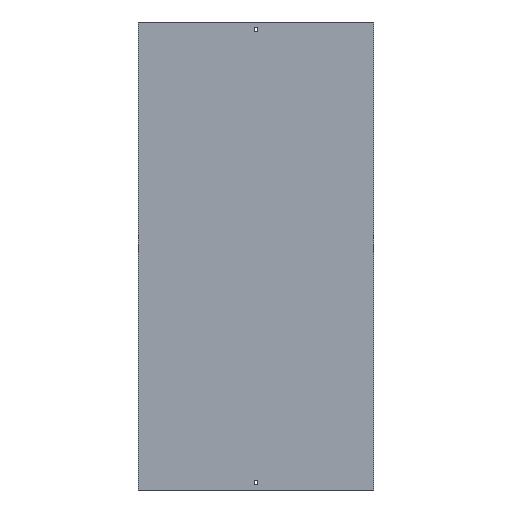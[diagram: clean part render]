
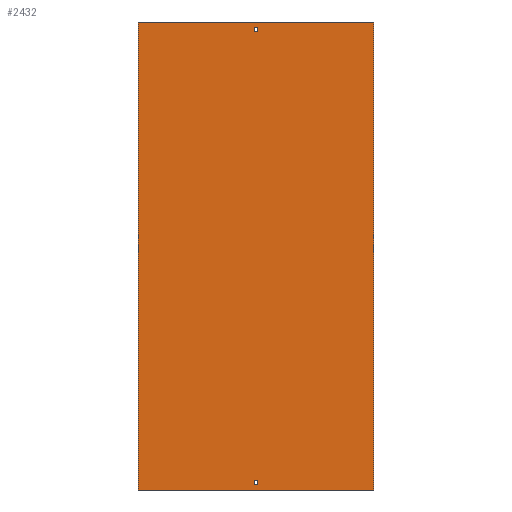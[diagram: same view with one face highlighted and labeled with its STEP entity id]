
A CAD part, front view. The second image highlights one B-rep face of the part: STEP entity #2432.
In plain terms, the highlighted planar face has unit normal (0, -1, 0).
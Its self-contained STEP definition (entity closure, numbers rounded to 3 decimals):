
#2 = ORIENTED_EDGE ( 'NONE', *, *, #1274, .T. ) ;
#5 = EDGE_LOOP ( 'NONE', ( #2153, #1395, #1908, #1073 ) ) ;
#58 = VECTOR ( 'NONE', #1038, 1000. ) ;
#91 = FACE_BOUND ( 'NONE', #431, .T. ) ;
#107 = CARTESIAN_POINT ( 'NONE',  ( 3.25, 0., -488. ) ) ;
#111 = VECTOR ( 'NONE', #2757, 1000. ) ;
#112 = LINE ( 'NONE', #1804, #953 ) ;
#159 = LINE ( 'NONE', #2686, #1477 ) ;
#238 = AXIS2_PLACEMENT_3D ( 'NONE', #1788, #2649, #2703 ) ;
#249 = EDGE_CURVE ( 'NONE', #597, #525, #391, .T. ) ;
#293 = ORIENTED_EDGE ( 'NONE', *, *, #1397, .F. ) ;
#299 = CARTESIAN_POINT ( 'NONE',  ( -3.25, 0., 479. ) ) ;
#332 = DIRECTION ( 'NONE',  ( 0., 0., 1. ) ) ;
#391 = LINE ( 'NONE', #2296, #2047 ) ;
#431 = EDGE_LOOP ( 'NONE', ( #1863, #1337, #2, #572 ) ) ;
#507 = CARTESIAN_POINT ( 'NONE',  ( -3.25, 0., -488. ) ) ;
#525 = VERTEX_POINT ( 'NONE', #805 ) ;
#540 = CARTESIAN_POINT ( 'NONE',  ( 3.25, 0., 488. ) ) ;
#550 = EDGE_CURVE ( 'NONE', #1476, #1169, #1455, .T. ) ;
#560 = ORIENTED_EDGE ( 'NONE', *, *, #2109, .F. ) ;
#572 = ORIENTED_EDGE ( 'NONE', *, *, #1322, .T. ) ;
#597 = VERTEX_POINT ( 'NONE', #2001 ) ;
#627 = VERTEX_POINT ( 'NONE', #2409 ) ;
#683 = CARTESIAN_POINT ( 'NONE',  ( -252., 0., 500. ) ) ;
#685 = VERTEX_POINT ( 'NONE', #2205 ) ;
#710 = ORIENTED_EDGE ( 'NONE', *, *, #2210, .F. ) ;
#724 = VECTOR ( 'NONE', #1364, 1000. ) ;
#799 = CARTESIAN_POINT ( 'NONE',  ( -3.25, 0., -479. ) ) ;
#805 = CARTESIAN_POINT ( 'NONE',  ( 252., 0., -500. ) ) ;
#915 = VERTEX_POINT ( 'NONE', #1707 ) ;
#942 = PLANE ( 'NONE',  #238 ) ;
#953 = VECTOR ( 'NONE', #2661, 1000. ) ;
#954 = VECTOR ( 'NONE', #332, 1000. ) ;
#983 = EDGE_CURVE ( 'NONE', #685, #597, #2637, .T. ) ;
#995 = CARTESIAN_POINT ( 'NONE',  ( 3.25, 0., 488. ) ) ;
#999 = CARTESIAN_POINT ( 'NONE',  ( -3.25, 0., 479. ) ) ;
#1035 = VECTOR ( 'NONE', #1899, 1000. ) ;
#1038 = DIRECTION ( 'NONE',  ( 1., 0., 0. ) ) ;
#1073 = ORIENTED_EDGE ( 'NONE', *, *, #1620, .T. ) ;
#1116 = DIRECTION ( 'NONE',  ( -1., 0., 0. ) ) ;
#1147 = FACE_OUTER_BOUND ( 'NONE', #5, .T. ) ;
#1169 = VERTEX_POINT ( 'NONE', #1936 ) ;
#1274 = EDGE_CURVE ( 'NONE', #627, #1938, #2176, .T. ) ;
#1304 = VECTOR ( 'NONE', #2274, 1000. ) ;
#1322 = EDGE_CURVE ( 'NONE', #1938, #1685, #2632, .T. ) ;
#1337 = ORIENTED_EDGE ( 'NONE', *, *, #1548, .T. ) ;
#1364 = DIRECTION ( 'NONE',  ( 1., 0., 0. ) ) ;
#1395 = ORIENTED_EDGE ( 'NONE', *, *, #249, .F. ) ;
#1397 = EDGE_CURVE ( 'NONE', #1169, #2367, #159, .T. ) ;
#1413 = LINE ( 'NONE', #1873, #111 ) ;
#1424 = LINE ( 'NONE', #999, #1304 ) ;
#1455 = LINE ( 'NONE', #2505, #1035 ) ;
#1476 = VERTEX_POINT ( 'NONE', #995 ) ;
#1477 = VECTOR ( 'NONE', #2076, 1000. ) ;
#1494 = VERTEX_POINT ( 'NONE', #1631 ) ;
#1548 = EDGE_CURVE ( 'NONE', #1722, #627, #2444, .T. ) ;
#1602 = CARTESIAN_POINT ( 'NONE',  ( -3.25, 0., -479. ) ) ;
#1620 = EDGE_CURVE ( 'NONE', #685, #1494, #112, .T. ) ;
#1631 = CARTESIAN_POINT ( 'NONE',  ( -252., 0., -500. ) ) ;
#1685 = VERTEX_POINT ( 'NONE', #2617 ) ;
#1707 = CARTESIAN_POINT ( 'NONE',  ( 3.25, 0., 479. ) ) ;
#1722 = VERTEX_POINT ( 'NONE', #1602 ) ;
#1727 = ORIENTED_EDGE ( 'NONE', *, *, #550, .F. ) ;
#1771 = DIRECTION ( 'NONE',  ( 0., 0., 1. ) ) ;
#1788 = CARTESIAN_POINT ( 'NONE',  ( -252., 0., 500. ) ) ;
#1804 = CARTESIAN_POINT ( 'NONE',  ( -252., 0., 500. ) ) ;
#1863 = ORIENTED_EDGE ( 'NONE', *, *, #2416, .T. ) ;
#1873 = CARTESIAN_POINT ( 'NONE',  ( -252., 0., -500. ) ) ;
#1885 = VECTOR ( 'NONE', #1771, 1000. ) ;
#1899 = DIRECTION ( 'NONE',  ( -1., 0., 0. ) ) ;
#1908 = ORIENTED_EDGE ( 'NONE', *, *, #983, .F. ) ;
#1936 = CARTESIAN_POINT ( 'NONE',  ( -3.25, 0., 488. ) ) ;
#1938 = VERTEX_POINT ( 'NONE', #2139 ) ;
#1996 = FACE_BOUND ( 'NONE', #2225, .T. ) ;
#2001 = CARTESIAN_POINT ( 'NONE',  ( 252., 0., 500. ) ) ;
#2047 = VECTOR ( 'NONE', #2086, 1000. ) ;
#2076 = DIRECTION ( 'NONE',  ( 0., 0., -1. ) ) ;
#2086 = DIRECTION ( 'NONE',  ( 0., 0., -1. ) ) ;
#2098 = VECTOR ( 'NONE', #1116, 1000. ) ;
#2109 = EDGE_CURVE ( 'NONE', #915, #1476, #2663, .T. ) ;
#2139 = CARTESIAN_POINT ( 'NONE',  ( 3.25, 0., -488. ) ) ;
#2153 = ORIENTED_EDGE ( 'NONE', *, *, #2173, .T. ) ;
#2173 = EDGE_CURVE ( 'NONE', #1494, #525, #1413, .T. ) ;
#2176 = LINE ( 'NONE', #107, #2459 ) ;
#2195 = CARTESIAN_POINT ( 'NONE',  ( -3.25, 0., -488. ) ) ;
#2205 = CARTESIAN_POINT ( 'NONE',  ( -252., 0., 500. ) ) ;
#2210 = EDGE_CURVE ( 'NONE', #2367, #915, #1424, .T. ) ;
#2225 = EDGE_LOOP ( 'NONE', ( #710, #293, #1727, #560 ) ) ;
#2274 = DIRECTION ( 'NONE',  ( 1., 0., 0. ) ) ;
#2296 = CARTESIAN_POINT ( 'NONE',  ( 252., 0., 500. ) ) ;
#2367 = VERTEX_POINT ( 'NONE', #299 ) ;
#2409 = CARTESIAN_POINT ( 'NONE',  ( 3.25, 0., -479. ) ) ;
#2416 = EDGE_CURVE ( 'NONE', #1685, #1722, #2443, .T. ) ;
#2432 = ADVANCED_FACE ( 'NONE', ( #1147, #1996, #91 ), #942, .F. ) ;
#2443 = LINE ( 'NONE', #2195, #1885 ) ;
#2444 = LINE ( 'NONE', #799, #58 ) ;
#2459 = VECTOR ( 'NONE', #2618, 1000. ) ;
#2505 = CARTESIAN_POINT ( 'NONE',  ( -3.25, 0., 488. ) ) ;
#2617 = CARTESIAN_POINT ( 'NONE',  ( -3.25, 0., -488. ) ) ;
#2618 = DIRECTION ( 'NONE',  ( 0., 0., -1. ) ) ;
#2632 = LINE ( 'NONE', #507, #2098 ) ;
#2637 = LINE ( 'NONE', #683, #724 ) ;
#2649 = DIRECTION ( 'NONE',  ( 0., 1., 0. ) ) ;
#2661 = DIRECTION ( 'NONE',  ( 0., 0., -1. ) ) ;
#2663 = LINE ( 'NONE', #540, #954 ) ;
#2686 = CARTESIAN_POINT ( 'NONE',  ( -3.25, 0., 488. ) ) ;
#2703 = DIRECTION ( 'NONE',  ( -1., 0., 0. ) ) ;
#2757 = DIRECTION ( 'NONE',  ( 1., 0., 0. ) ) ;
